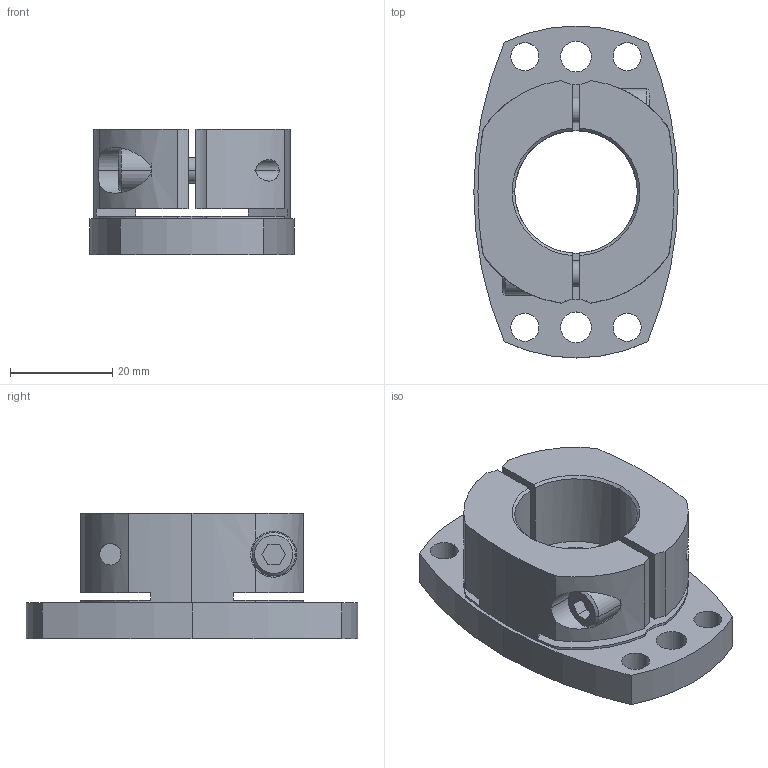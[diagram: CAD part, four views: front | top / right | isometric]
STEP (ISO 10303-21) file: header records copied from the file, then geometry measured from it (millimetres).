
FILE_DESCRIPTION((''),'2;1');
FILE_NAME('SHDB-65B-24.stp','2026-01-28T08:00:00',(''),(''),'AutoCAD STEP 2000i','AutoCAD 2000i',', , ');
FILE_SCHEMA(('CONFIG_CONTROL_DESIGN'));
Length unit declared in the file: millimetre
Products named in the file (2): SHDB-65B-24; 忣兜1
Assembly tree (1 placements, depth 2):
  SHDB-65B-24
    忣兜1
Bounding box: 40 x 65 x 24.5 mm (x, y, z)
Volume: 26449.1 mm3; surface area: 11970.5 mm2
Topology: 1 solids, 1 shells, 102 faces, 274 edges, 180 vertices
Faces by surface type: cylinder 58, plane 34, cone 10
Entity records: 3623 total; most frequent: CARTESIAN_POINT 824, DIRECTION 600, ORIENTED_EDGE 548, EDGE_CURVE 274, AXIS2_PLACEMENT_3D 238, VERTEX_POINT 180, CIRCLE 134, EDGE_LOOP 126
